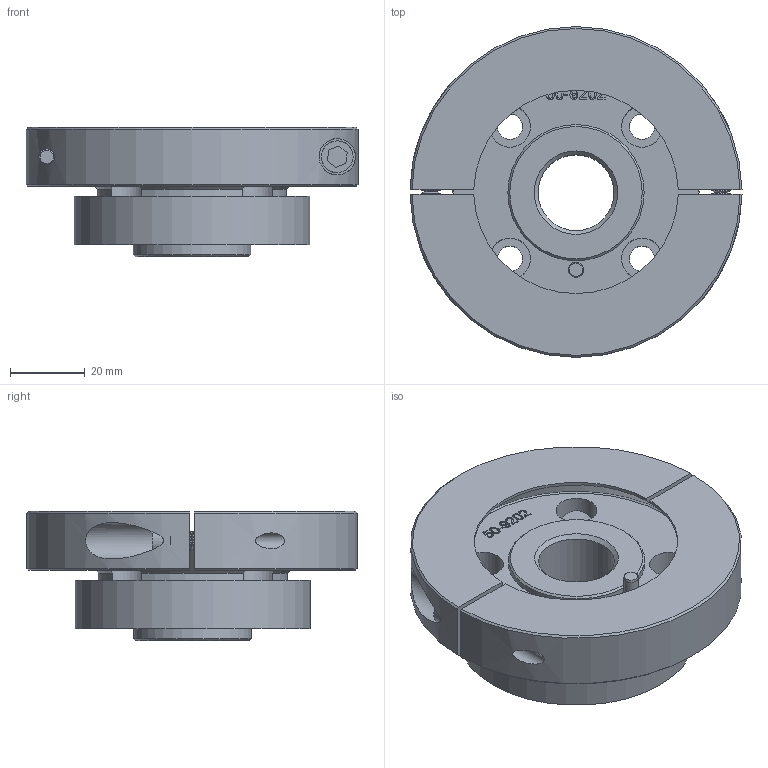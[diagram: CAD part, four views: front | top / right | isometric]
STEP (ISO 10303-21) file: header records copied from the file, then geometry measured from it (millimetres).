
FILE_DESCRIPTION (( 'STEP AP214' ), '1' );
FILE_NAME ('ATI-9005-50-6192.STEP', '2020-09-18T21:21:55', ( '' ), ( '' ), 'SwSTEP 2.0', 'SolidWorks 2020', '' );
FILE_SCHEMA (( 'AUTOMOTIVE_DESIGN' ));
Length unit declared in the file: inch
Products named in the file (1): ATI-9005-50-6192
Bounding box: 88.89 x 88.53 x 34.73 mm (x, y, z)
Volume: 106585.2 mm3; surface area: 36224.7 mm2
Topology: 4 solids, 4 shells, 350 faces, 844 edges, 523 vertices
Faces by surface type: cone 135, cylinder 80, plane 75, bspline 60
Full cylindrical faces by diameter (mm): 3.962 x1, 3.994 x1, 4.2 x20, 5 x28, 5.41 x2, 6.048 x1, 6.76 x4, 8.5 x2, 9.754 x2, 11 x4, 20.32 x1, 31.463 x1, 36.474 x1, 63 x1, 65.888 x1
Entity records: 12661 total; most frequent: CARTESIAN_POINT 5865, DIRECTION 1270, ORIENTED_EDGE 1176, EDGE_LOOP 596, EDGE_CURVE 588, AXIS2_PLACEMENT_3D 543, VERTEX_POINT 466, FACE_OUTER_BOUND 420
